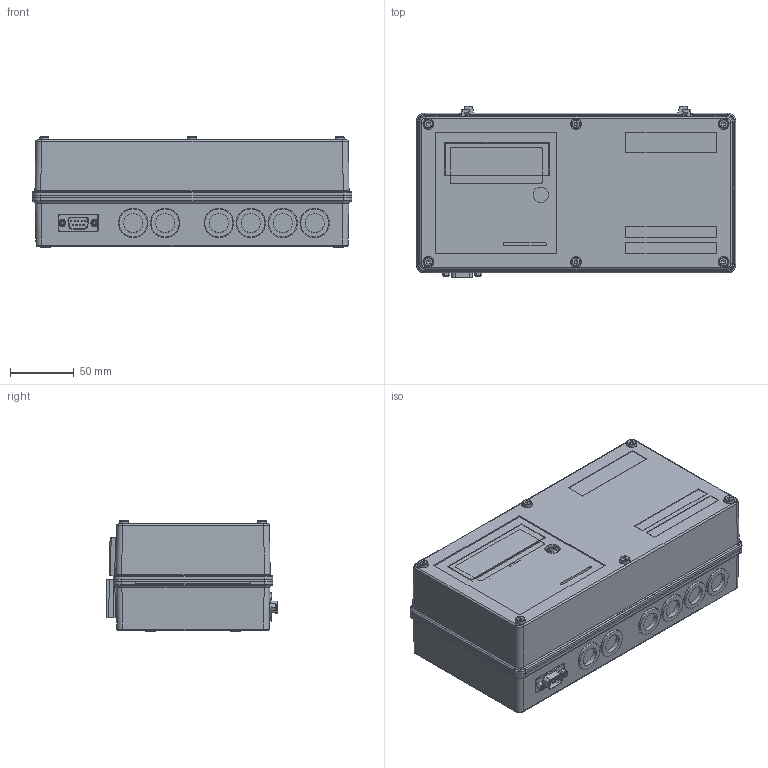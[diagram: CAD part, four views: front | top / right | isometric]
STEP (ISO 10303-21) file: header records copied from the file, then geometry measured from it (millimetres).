
FILE_DESCRIPTION(('STEP AP242'), '1');
FILE_NAME('栖闉罻', '', ('UNSPECIFIED'), ('UNSPECIFIED'), 'ASCON STEP Converter 1.6', 'ASCON Math Kernel', '');
FILE_SCHEMA(('AP242_MANAGED_MODEL_BASED_3D_ENGINEERING_MIM_LF { 1 0 10303 442 1 1 4 }'));
Length unit declared in the file: millimetre
Products named in the file (23): DI-9搪人世; ﾊﾎﾆﾓﾕ; PART1; PART2; PART3; PART4; PART5; PART6; PART7; PART8; PART9; PART10; 庉俵衭1; ﾏﾅﾐﾅﾌﾛﾗﾊﾀ; ﾄﾍﾎ; ﾇﾀﾙﾅﾋﾊﾀ; 婽挭.433814.003 沓劌錪 鴈儰罻襜譇; TIC32_BL bulk; TIC32
Assembly tree (28 placements, depth 4):
  (unnamed)
    (unnamed)
    DI-9搪人世
      ﾊﾎﾆﾓﾕ
        PART1
        PART2
        PART3
        PART4
        PART5
        PART6
        PART7
        PART8
        PART9
        PART10
      庉俵衭1
      ﾏﾅﾐﾅﾌﾛﾗﾊﾀ
      ﾄﾍﾎ
        ﾇﾀﾙﾅﾋﾊﾀ
      (unnamed)  x2
    (unnamed)  x6
    婽挭.433814.003 沓劌錪 鴈儰罻襜譇
      TIC32_BL bulk
      TIC32
Bounding box: 250 x 134.35 x 86.5 mm (x, y, z)
Volume: 431644 mm3; surface area: 384928.8 mm2
Topology: 42 solids, 42 shells, 2341 faces, 6114 edges, 4028 vertices
Faces by surface type: plane 1442, cylinder 446, cone 394, bspline 45, torus 12, sphere 2
Full cylindrical faces by diameter (mm): 0.1 x1, 1 x9, 2 x4, 2.3 x34, 2.362 x2, 2.381 x2, 3 x10, 3.2 x26, 3.422 x6, 3.5 x4, 4 x6, 4.2 x4, 4.5 x12, 5.5 x6, 6 x2, 7 x12, 7.5 x8, 8 x4, 8.5 x6, 12 x1, 15 x12, 17.5 x6, 18 x6, 22 x12, 23 x6
Entity records: 94898 total; most frequent: CARTESIAN_POINT 19172, ORIENTED_EDGE 11502, DIRECTION 11394, EDGE_CURVE 5751, VERTEX_POINT 3948, AXIS2_PLACEMENT_3D 3850, LINE 3694, VECTOR 3694
